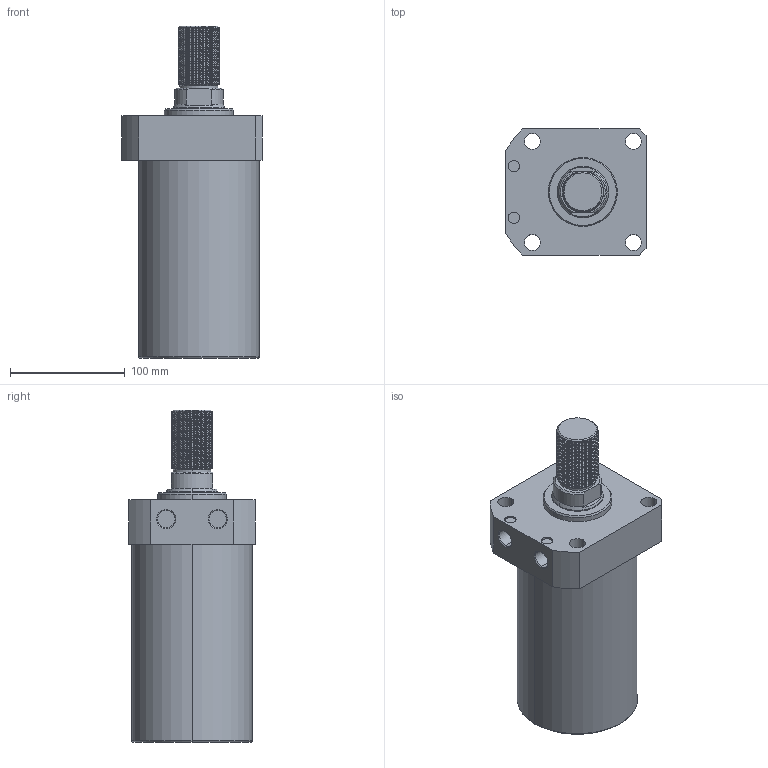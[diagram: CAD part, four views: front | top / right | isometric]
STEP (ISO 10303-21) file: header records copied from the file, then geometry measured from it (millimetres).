
FILE_DESCRIPTION (( 'STEP AP214' ), '1' );
FILE_NAME ('CLLR-105CT-125.STEP', '2020-01-10T05:57:14', ( 'Windows' ), ( 'Microsoft' ), 'SwSTEP 2.0', 'SolidWorks 2015', '' );
FILE_SCHEMA (( 'AUTOMOTIVE_DESIGN' ));
Length unit declared in the file: millimetre
Products named in the file (1): CLLR-105CT-125
Bounding box: 122 x 110 x 289 mm (x, y, z)
Volume: 2062442.8 mm3; surface area: 120301.4 mm2
Topology: 1 solids, 1 shells, 135 faces, 361 edges, 236 vertices
Faces by surface type: cylinder 96, plane 20, cone 15, torus 2, bspline 2
Entity records: 8166 total; most frequent: CARTESIAN_POINT 5062, ORIENTED_EDGE 722, DIRECTION 560, EDGE_CURVE 361, VERTEX_POINT 236, AXIS2_PLACEMENT_3D 214, EDGE_LOOP 151, FACE_OUTER_BOUND 135
